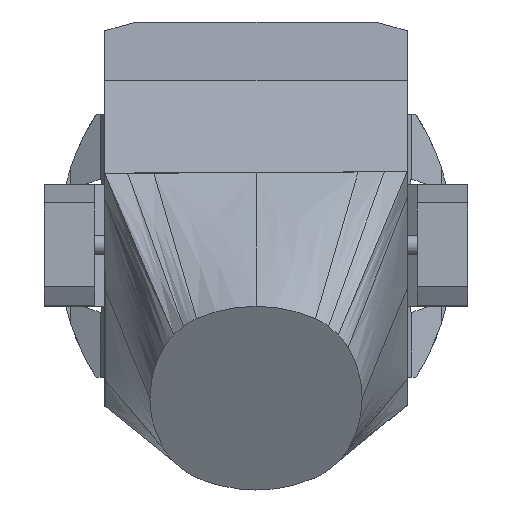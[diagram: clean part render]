
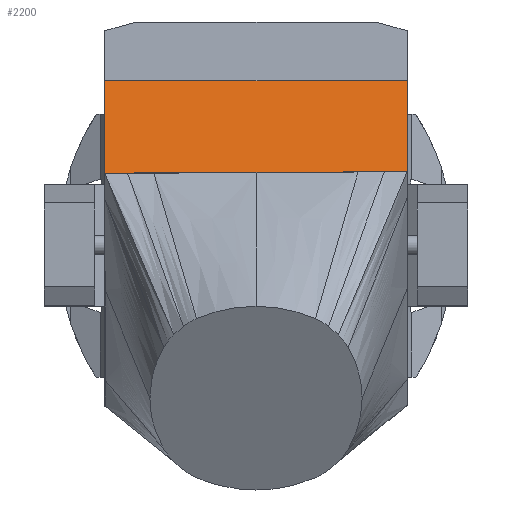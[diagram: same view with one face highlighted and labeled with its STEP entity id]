
A CAD part, top view. The second image highlights one B-rep face of the part: STEP entity #2200.
In plain terms, the highlighted planar face has unit normal (0, 0.859, 0.511) as drawn and (0, 1, 0.013) by its records, which use the part's own axes.
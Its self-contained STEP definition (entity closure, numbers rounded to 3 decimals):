
#141=PLANE('',#2347);
#218=FACE_OUTER_BOUND('',#338,.T.);
#338=EDGE_LOOP('',(#1556,#1557,#1558,#1559));
#464=LINE('',#3075,#702);
#479=LINE('',#3105,#717);
#488=LINE('',#3122,#726);
#494=LINE('',#3133,#732);
#702=VECTOR('',#2515,10.);
#717=VECTOR('',#2534,10.);
#726=VECTOR('',#2545,10.);
#732=VECTOR('',#2555,10.);
#961=VERTEX_POINT('',#3072);
#962=VERTEX_POINT('',#3074);
#975=VERTEX_POINT('',#3104);
#982=VERTEX_POINT('',#3120);
#1183=EDGE_CURVE('',#961,#962,#464,.T.);
#1198=EDGE_CURVE('',#962,#975,#479,.T.);
#1207=EDGE_CURVE('',#982,#961,#488,.T.);
#1213=EDGE_CURVE('',#975,#982,#494,.T.);
#1556=ORIENTED_EDGE('',*,*,#1198,.F.);
#1557=ORIENTED_EDGE('',*,*,#1183,.F.);
#1558=ORIENTED_EDGE('',*,*,#1207,.F.);
#1559=ORIENTED_EDGE('',*,*,#1213,.F.);
#2200=ADVANCED_FACE('',(#218),#141,.F.);
#2347=AXIS2_PLACEMENT_3D('',#3132,#2553,#2554);
#2515=DIRECTION('',(-1.,0.,0.009));
#2534=DIRECTION('',(0.,0.013,-1.));
#2545=DIRECTION('',(0.,-0.013,1.));
#2553=DIRECTION('center_axis',(0.,-1.,-0.013));
#2554=DIRECTION('ref_axis',(0.,0.013,-1.));
#2555=DIRECTION('',(1.,0.,0.));
#3072=CARTESIAN_POINT('',(154.609,137.065,544.436));
#3074=CARTESIAN_POINT('',(-154.609,137.027,547.344));
#3075=CARTESIAN_POINT('',(0.317,137.046,545.887));
#3104=CARTESIAN_POINT('',(-154.609,139.472,362.158));
#3105=CARTESIAN_POINT('',(-154.609,139.148,386.662));
#3120=CARTESIAN_POINT('',(154.609,139.472,362.158));
#3122=CARTESIAN_POINT('',(154.609,137.034,546.796));
#3132=CARTESIAN_POINT('Origin',(0.,137.065,544.436));
#3133=CARTESIAN_POINT('',(0.,139.472,362.158));
